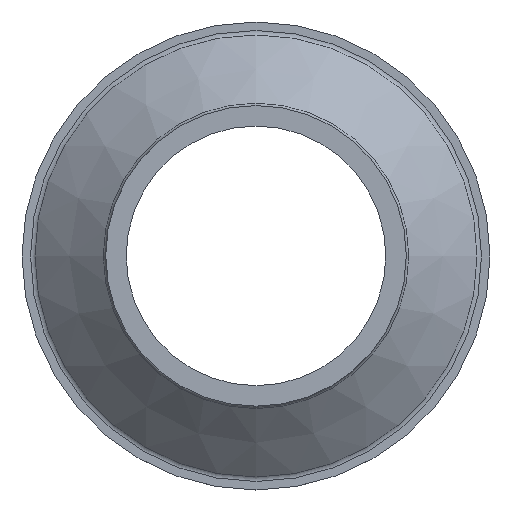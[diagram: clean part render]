
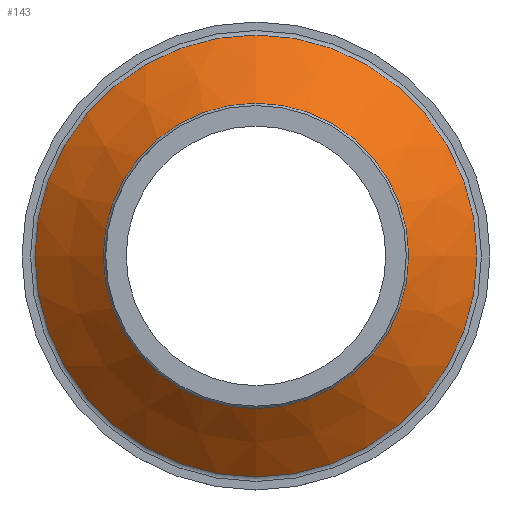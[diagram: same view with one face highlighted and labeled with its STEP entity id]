
A CAD part, top view. The second image highlights one B-rep face of the part: STEP entity #143.
In plain terms, the highlighted conical face has half-angle 48.977 degrees and reference radius 22.344 mm.
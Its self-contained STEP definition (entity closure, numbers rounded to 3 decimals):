
#98=CARTESIAN_POINT('',(32.344,0.,1.246));
#99=VERTEX_POINT('',#98);
#107=CARTESIAN_POINT('',(0.,0.,1.246));
#108=DIRECTION('',(1.,0.,0.));
#109=DIRECTION('',(0.,0.,1.));
#110=AXIS2_PLACEMENT_3D('',#107,#109,#108);
#111=CIRCLE('',#110,32.344);
#112=EDGE_CURVE('',#99,#99,#111,.T.);
#119=CARTESIAN_POINT('',(0.,0.,9.946));
#120=DIRECTION('',(1.,0.,0.));
#121=DIRECTION('',(-0.,-0.,-1.));
#122=AXIS2_PLACEMENT_3D('',#119,#121,#120);
#123=CONICAL_SURFACE('',#122,22.344,0.855);
#124=CARTESIAN_POINT('',(22.344,0.,9.946));
#125=VERTEX_POINT('',#124);
#126=CARTESIAN_POINT('',(32.344,0.,1.246));
#127=DIRECTION('',(-0.754,0.,0.656));
#128=VECTOR('',#127,13.255);
#129=LINE('',#126,#128);
#130=EDGE_CURVE('',#99,#125,#129,.T.);
#131=ORIENTED_EDGE('E3',*,*,#130,.T.);
#132=CARTESIAN_POINT('',(0.,0.,9.946));
#133=DIRECTION('',(1.,-0.,-0.));
#134=DIRECTION('',(0.,-0.,1.));
#135=AXIS2_PLACEMENT_3D('',#132,#134,#133);
#136=CIRCLE('',#135,22.344);
#137=EDGE_CURVE('',#125,#125,#136,.T.);
#138=ORIENTED_EDGE('E12',*,*,#137,.T.);
#139=ORIENTED_EDGE('E12',*,*,#130,.F.);
#140=ORIENTED_EDGE('E12',*,*,#112,.F.);
#141=EDGE_LOOP('',(#131,#138,#139,#140));
#142=FACE_OUTER_BOUND('',#141,.F.);
#143=ADVANCED_FACE('F5',(#142),#123,.T.);
